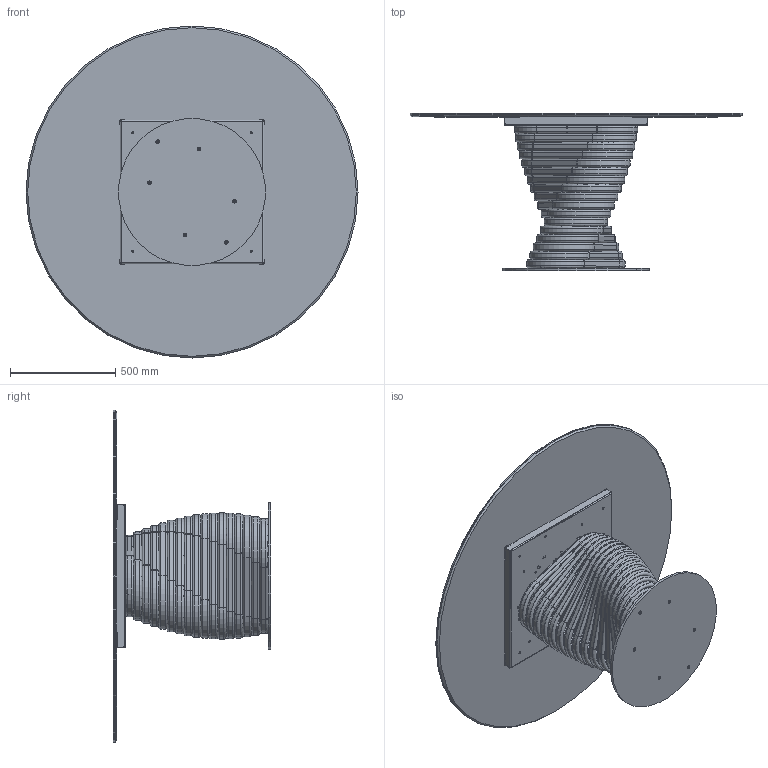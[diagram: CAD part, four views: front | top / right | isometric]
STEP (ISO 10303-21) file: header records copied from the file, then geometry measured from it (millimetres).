
FILE_DESCRIPTION (( 'STEP AP203' ), '1' );
FILE_NAME ('RO07C.STEP', '2024-08-07T13:09:51', ( '' ), ( '' ), 'SwSTEP 2.0', 'SolidWorks 2022', '' );
FILE_SCHEMA (( 'CONFIG_CONTROL_DESIGN' ));
Length unit declared in the file: millimetre
Products named in the file (15): TTAV0801-02-TELAIO UNIVERSALE TONDO-VASSOIO; ROBX00000MED-00-Anello rotolo MEDIO_Default<A macchina>; rondella M8_8X24; ROB200000-00-PIASTRA BASE_Ø70cm; COLLO TELAIO UNIVERSALE TTAV0801 CON FERRAMENTA_MTG TOP CRISTALLO VERNICIATO-CERAMICA; M8xXXmm_M8x20mm; ROBX00000-00-ROTOLO BASE 17 ANELLI; ROBX00000INF-00-Anello rotolo INFERIORE_Default<A macchina>; RO07C; TTAV0801-02-TELAIO UNIVERSALE TONDO; M8xXXmm_hex_M8X20mm; TTAV0801 TELAIO UNIVERSALE TONDO-PIASTRINA; ROBX00000SUP-00-Anello rotolo SUPERIORE_Default<A macchina>; K1XCMXX-00-Piani Rotondi in ceramica_D.1580; 434070-00-PIEDINO TPV GOMMA NERO D. 30x8max18_filo estetico
Assembly tree (45 placements, depth 4):
  RO07C
    ROB200000-00-PIASTRA BASE_Ø70cm
    ROBX00000-00-ROTOLO BASE 17 ANELLI
      ROBX00000INF-00-Anello rotolo INFERIORE_Default<A macchina>
      ROBX00000MED-00-Anello rotolo MEDIO_Default<A macchina>  x15
      ROBX00000SUP-00-Anello rotolo SUPERIORE_Default<A macchina>
    M8xXXmm_hex_M8X20mm  x6
    COLLO TELAIO UNIVERSALE TTAV0801 CON FERRAMENTA_MTG TOP CRISTALLO VERNICIATO-CERAMICA
      TTAV0801-02-TELAIO UNIVERSALE TONDO
        TTAV0801-02-TELAIO UNIVERSALE TONDO-VASSOIO
        TTAV0801 TELAIO UNIVERSALE TONDO-PIASTRINA  x4
      434070-00-PIEDINO TPV GOMMA NERO D. 30x8max18_filo estetico  x4
    rondella M8_8X24  x4
    M8xXXmm_M8x20mm  x4
    K1XCMXX-00-Piani Rotondi in ceramica_D.1580
Bounding box: 1580 x 748 x 1580 mm (x, y, z)
Volume: 43039347.5 mm3; surface area: 14783997 mm2
Topology: 98 solids, 98 shells, 1638 faces, 4010 edges, 2548 vertices
Faces by surface type: plane 696, cylinder 628, torus 212, cone 102
Entity records: 22675 total; most frequent: CARTESIAN_POINT 5030, DIRECTION 3312, ORIENTED_EDGE 3090, EDGE_CURVE 1545, AXIS2_PLACEMENT_3D 1221, VERTEX_POINT 995, LINE 870, VECTOR 870
